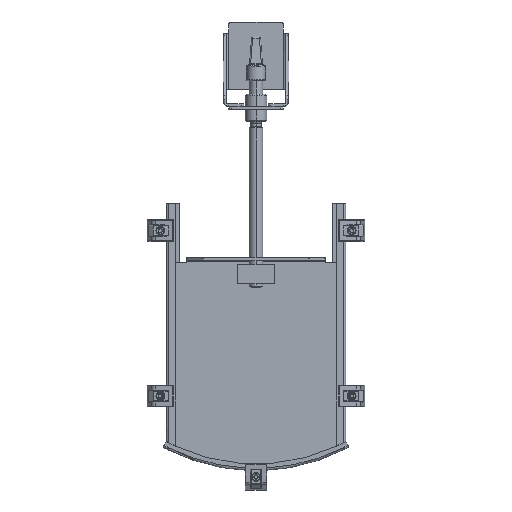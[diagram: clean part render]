
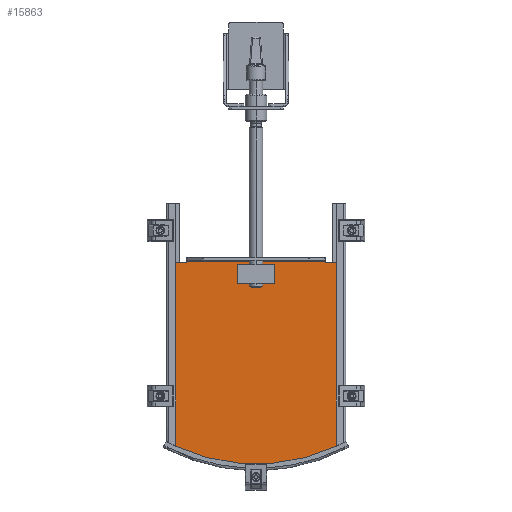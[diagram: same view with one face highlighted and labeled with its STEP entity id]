
A CAD part, top view. The second image highlights one B-rep face of the part: STEP entity #15863.
In plain terms, the highlighted planar face has unit normal (0, 0, 1).
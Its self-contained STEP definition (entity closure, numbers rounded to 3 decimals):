
#241 = DIRECTION ( 'NONE',  ( -1., 0., 0. ) ) ;
#428 = CARTESIAN_POINT ( 'NONE',  ( -127., 372., 33. ) ) ;
#518 = ORIENTED_EDGE ( 'NONE', *, *, #29509, .T. ) ;
#1036 = FACE_BOUND ( 'NONE', #39082, .T. ) ;
#1041 = CARTESIAN_POINT ( 'NONE',  ( 34., 332.5, 33. ) ) ;
#1337 = VERTEX_POINT ( 'NONE', #27559 ) ;
#1820 = CARTESIAN_POINT ( 'NONE',  ( -34., 367.5, 33. ) ) ;
#1883 = EDGE_CURVE ( 'NONE', #36423, #23667, #26464, .T. ) ;
#2145 = VERTEX_POINT ( 'NONE', #8324 ) ;
#2736 = VECTOR ( 'NONE', #3896, 1000. ) ;
#2975 = LINE ( 'NONE', #31194, #5034 ) ;
#3544 = CARTESIAN_POINT ( 'NONE',  ( 129., 370., 33. ) ) ;
#3586 = EDGE_CURVE ( 'NONE', #15157, #12797, #31460, .T. ) ;
#3896 = DIRECTION ( 'NONE',  ( -1., 0., 0. ) ) ;
#4435 = LINE ( 'NONE', #28765, #29744 ) ;
#5034 = VECTOR ( 'NONE', #30560, 1000. ) ;
#5142 = CARTESIAN_POINT ( 'NONE',  ( 129., 372., 33. ) ) ;
#5651 = ORIENTED_EDGE ( 'NONE', *, *, #3586, .F. ) ;
#5747 = DIRECTION ( 'NONE',  ( 1., 0., 0. ) ) ;
#5925 = DIRECTION ( 'NONE',  ( 0., 0., -1. ) ) ;
#6258 = EDGE_LOOP ( 'NONE', ( #32584, #27864, #23496, #23047, #16296, #518, #30792, #21793 ) ) ;
#6937 = LINE ( 'NONE', #31707, #32820 ) ;
#7173 = CARTESIAN_POINT ( 'NONE',  ( 34., 367.5, 33. ) ) ;
#7573 = DIRECTION ( 'NONE',  ( 0., 0., 1. ) ) ;
#8244 = CARTESIAN_POINT ( 'NONE',  ( -129., 370., 33. ) ) ;
#8324 = CARTESIAN_POINT ( 'NONE',  ( -147.995, 370., 33. ) ) ;
#8923 = DIRECTION ( 'NONE',  ( 1., 0., 0. ) ) ;
#9102 = VECTOR ( 'NONE', #31268, 1000. ) ;
#9392 = CARTESIAN_POINT ( 'NONE',  ( 147.995, 370., 33. ) ) ;
#9702 = AXIS2_PLACEMENT_3D ( 'NONE', #23942, #5925, #8923 ) ;
#10640 = VECTOR ( 'NONE', #23503, 1000. ) ;
#11625 = CARTESIAN_POINT ( 'NONE',  ( -155., 372., 33. ) ) ;
#12597 = CARTESIAN_POINT ( 'NONE',  ( -34., 332.5, 33. ) ) ;
#12797 = VERTEX_POINT ( 'NONE', #1820 ) ;
#14070 = CARTESIAN_POINT ( 'NONE',  ( 127., 372., 33. ) ) ;
#14501 = VERTEX_POINT ( 'NONE', #8244 ) ;
#15157 = VERTEX_POINT ( 'NONE', #7173 ) ;
#15606 = FACE_OUTER_BOUND ( 'NONE', #6258, .T. ) ;
#15863 = ADVANCED_FACE ( 'NONE', ( #15606, #1036 ), #37991, .T. ) ;
#15981 = LINE ( 'NONE', #24711, #39641 ) ;
#16265 = DIRECTION ( 'NONE',  ( 1., 0., 0. ) ) ;
#16296 = ORIENTED_EDGE ( 'NONE', *, *, #34517, .T. ) ;
#16702 = DIRECTION ( 'NONE',  ( 1., 0., 0. ) ) ;
#16742 = VERTEX_POINT ( 'NONE', #33785 ) ;
#18306 = EDGE_CURVE ( 'NONE', #2145, #1337, #15981, .T. ) ;
#18704 = VECTOR ( 'NONE', #26716, 1000. ) ;
#18984 = VERTEX_POINT ( 'NONE', #14070 ) ;
#19894 = CARTESIAN_POINT ( 'NONE',  ( 147.995, 38.425, 33. ) ) ;
#20718 = CIRCLE ( 'NONE', #9702, 2. ) ;
#20836 = EDGE_CURVE ( 'NONE', #38639, #16742, #26184, .T. ) ;
#21793 = ORIENTED_EDGE ( 'NONE', *, *, #36311, .T. ) ;
#21950 = ORIENTED_EDGE ( 'NONE', *, *, #38504, .F. ) ;
#22246 = VERTEX_POINT ( 'NONE', #428 ) ;
#22247 = DIRECTION ( 'NONE',  ( 0., 1., 0. ) ) ;
#22641 = EDGE_CURVE ( 'NONE', #22246, #18984, #23642, .T. ) ;
#23047 = ORIENTED_EDGE ( 'NONE', *, *, #22641, .F. ) ;
#23107 = LINE ( 'NONE', #23302, #2736 ) ;
#23302 = CARTESIAN_POINT ( 'NONE',  ( -148.172, 370., 33. ) ) ;
#23496 = ORIENTED_EDGE ( 'NONE', *, *, #27066, .T. ) ;
#23503 = DIRECTION ( 'NONE',  ( 0., -1., 0. ) ) ;
#23642 = LINE ( 'NONE', #11625, #18704 ) ;
#23667 = VERTEX_POINT ( 'NONE', #1041 ) ;
#23942 = CARTESIAN_POINT ( 'NONE',  ( -129., 372., 33. ) ) ;
#24711 = CARTESIAN_POINT ( 'NONE',  ( -147.995, -47.788, 33. ) ) ;
#24951 = CARTESIAN_POINT ( 'NONE',  ( -34., 332.5, 33. ) ) ;
#25572 = CARTESIAN_POINT ( 'NONE',  ( -155., 38.425, 33. ) ) ;
#26184 = LINE ( 'NONE', #19894, #10640 ) ;
#26464 = LINE ( 'NONE', #12597, #38694 ) ;
#26716 = DIRECTION ( 'NONE',  ( 1., 0., 0. ) ) ;
#27066 = EDGE_CURVE ( 'NONE', #38725, #18984, #35674, .T. ) ;
#27508 = CIRCLE ( 'NONE', #29426, 350. ) ;
#27559 = CARTESIAN_POINT ( 'NONE',  ( -147.995, 32.829, 33. ) ) ;
#27864 = ORIENTED_EDGE ( 'NONE', *, *, #37857, .T. ) ;
#28270 = DIRECTION ( 'NONE',  ( 1., 0., 0. ) ) ;
#28765 = CARTESIAN_POINT ( 'NONE',  ( 34., 367.5, 33. ) ) ;
#28800 = CARTESIAN_POINT ( 'NONE',  ( -34., 367.5, 33. ) ) ;
#29193 = AXIS2_PLACEMENT_3D ( 'NONE', #5142, #39438, #5747 ) ;
#29426 = AXIS2_PLACEMENT_3D ( 'NONE', #32127, #7573, #16702 ) ;
#29509 = EDGE_CURVE ( 'NONE', #14501, #2145, #23107, .T. ) ;
#29744 = VECTOR ( 'NONE', #22247, 1000. ) ;
#30560 = DIRECTION ( 'NONE',  ( 0., -1., 0. ) ) ;
#30792 = ORIENTED_EDGE ( 'NONE', *, *, #18306, .T. ) ;
#31194 = CARTESIAN_POINT ( 'NONE',  ( -34., 367.5, 33. ) ) ;
#31268 = DIRECTION ( 'NONE',  ( -1., 0., 0. ) ) ;
#31460 = LINE ( 'NONE', #28800, #9102 ) ;
#31707 = CARTESIAN_POINT ( 'NONE',  ( 148.172, 370., 33. ) ) ;
#32127 = CARTESIAN_POINT ( 'NONE',  ( 0., 350., 33. ) ) ;
#32584 = ORIENTED_EDGE ( 'NONE', *, *, #20836, .F. ) ;
#32820 = VECTOR ( 'NONE', #241, 1000. ) ;
#33785 = CARTESIAN_POINT ( 'NONE',  ( 147.995, 32.829, 33. ) ) ;
#33848 = EDGE_CURVE ( 'NONE', #23667, #15157, #4435, .T. ) ;
#33988 = ORIENTED_EDGE ( 'NONE', *, *, #33848, .F. ) ;
#34517 = EDGE_CURVE ( 'NONE', #22246, #14501, #20718, .T. ) ;
#35674 = CIRCLE ( 'NONE', #29193, 2. ) ;
#36102 = AXIS2_PLACEMENT_3D ( 'NONE', #25572, #37781, #16265 ) ;
#36311 = EDGE_CURVE ( 'NONE', #1337, #16742, #27508, .T. ) ;
#36423 = VERTEX_POINT ( 'NONE', #24951 ) ;
#36899 = ORIENTED_EDGE ( 'NONE', *, *, #1883, .F. ) ;
#37085 = DIRECTION ( 'NONE',  ( 0., -1., 0. ) ) ;
#37781 = DIRECTION ( 'NONE',  ( 0., 0., 1. ) ) ;
#37857 = EDGE_CURVE ( 'NONE', #38639, #38725, #6937, .T. ) ;
#37991 = PLANE ( 'NONE',  #36102 ) ;
#38504 = EDGE_CURVE ( 'NONE', #12797, #36423, #2975, .T. ) ;
#38639 = VERTEX_POINT ( 'NONE', #9392 ) ;
#38694 = VECTOR ( 'NONE', #28270, 1000. ) ;
#38725 = VERTEX_POINT ( 'NONE', #3544 ) ;
#39082 = EDGE_LOOP ( 'NONE', ( #36899, #21950, #5651, #33988 ) ) ;
#39438 = DIRECTION ( 'NONE',  ( 0., 0., -1. ) ) ;
#39641 = VECTOR ( 'NONE', #37085, 1000. ) ;
